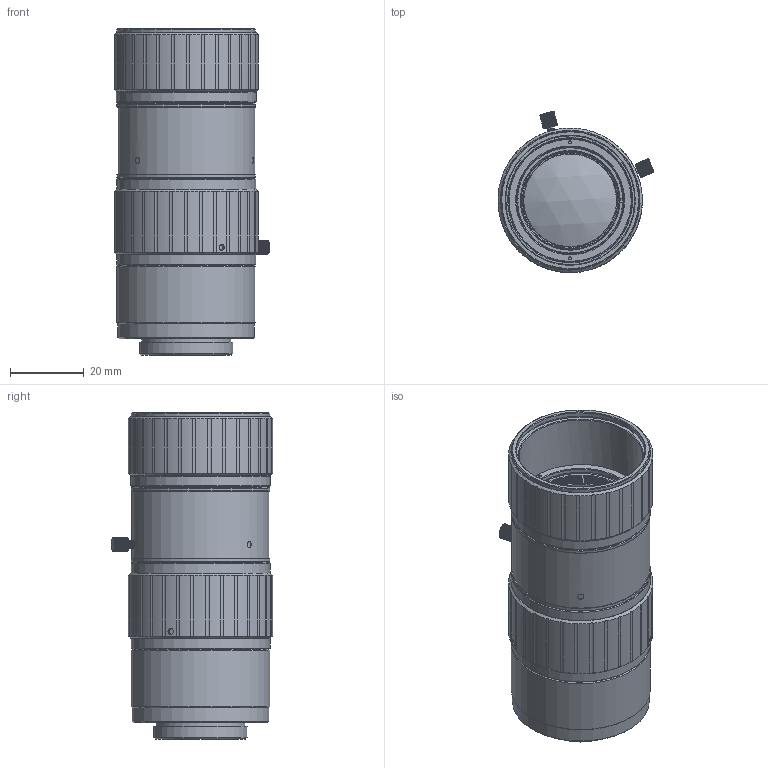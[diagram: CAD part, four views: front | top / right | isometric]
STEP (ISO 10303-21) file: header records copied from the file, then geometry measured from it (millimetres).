
FILE_DESCRIPTION (( 'STEP AP203' ), '1' );
FILE_NAME ('QM994375120_3D.STEP', '2024-12-13T07:43:14', ( '' ), ( '' ), 'SwSTEP 2.0', 'SolidWorks 2022', '' );
FILE_SCHEMA (( 'CONFIG_CONTROL_DESIGN' ));
Length unit declared in the file: millimetre
Products named in the file (1): QM994375120_3D
Bounding box: 42.37 x 43.83 x 88.63 mm (x, y, z)
Volume: 76587.9 mm3; surface area: 18716.6 mm2
Topology: 5 solids, 8 shells, 871 faces, 2393 edges, 1580 vertices
Faces by surface type: plane 436, cylinder 319, cone 96, bspline 15, torus 3, sphere 2
Full cylindrical faces by diameter (mm): 0.8 x2, 1 x1, 1.5 x2, 1.6 x9, 1.8 x3, 2.5 x3, 2.9 x3, 19.8 x1, 20.4 x1, 21.92 x1, 22.5 x1, 22.55 x1, 22.7 x1, 22.8 x1, 24.2 x1, 25.4 x1, 26 x1, 26.7 x1, 26.8 x1, 29.2 x1, 30.7 x1, 32.8 x1, 33 x2, 33.6 x2, 35 x1, 35.7 x2, 36 x1, 37.186 x1, 37.2 x1, 37.4 x1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
Entity records: 36099 total; most frequent: CARTESIAN_POINT 16230, ORIENTED_EDGE 4406, DIRECTION 3527, EDGE_CURVE 2203, VERTEX_POINT 1527, AXIS2_PLACEMENT_3D 1439, EDGE_LOOP 1052, B_SPLINE_CURVE_WITH_KNOTS 957
